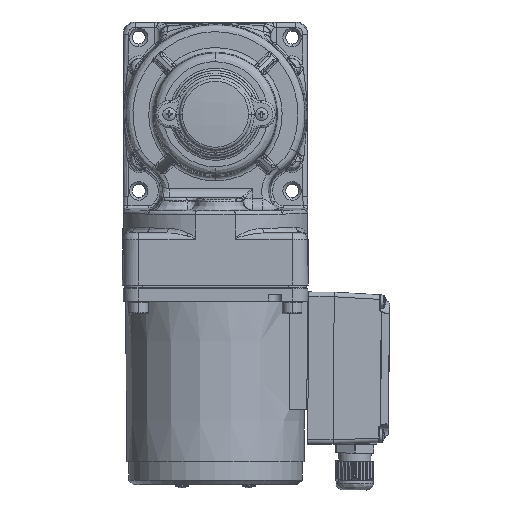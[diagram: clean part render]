
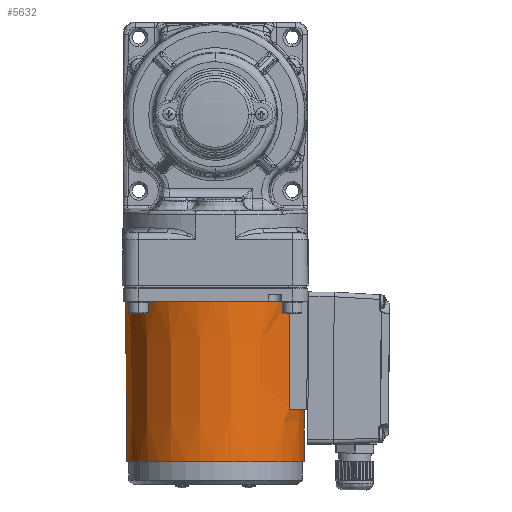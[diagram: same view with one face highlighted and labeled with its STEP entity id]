
A CAD part, left-side view. The second image highlights one B-rep face of the part: STEP entity #5632.
In plain terms, the highlighted conical face has half-angle 0.47 degrees and reference radius 38.947 mm.
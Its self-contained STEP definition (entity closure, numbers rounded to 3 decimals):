
#3020 = VERTEX_POINT ( 'NONE', #67636 ) ;
#3150 = AXIS2_PLACEMENT_3D ( 'NONE', #60137, #16635, #67307 ) ;
#4649 = AXIS2_PLACEMENT_3D ( 'NONE', #63301, #63118, #62997 ) ;
#5632 = ADVANCED_FACE ( 'NONE', ( #62599 ), #85411, .T. ) ;
#10575 =( BOUNDED_CURVE ( )  B_SPLINE_CURVE ( 3, ( #49008, #49099, #50046, #48985 ),
 .UNSPECIFIED., .F., .F. ) 
 B_SPLINE_CURVE_WITH_KNOTS ( ( 4, 4 ),
 ( 3.781, 3.785 ),
 .UNSPECIFIED. ) 
 CURVE ( )  GEOMETRIC_REPRESENTATION_ITEM ( )  RATIONAL_B_SPLINE_CURVE ( ( 1., 1., 1., 1. ) ) 
 REPRESENTATION_ITEM ( '' )  );
#13320 = CARTESIAN_POINT ( 'NONE',  ( 0., 0., -38.947 ) ) ;
#13617 = EDGE_LOOP ( 'NONE', ( #63433, #71862, #50730, #39916, #60328, #92405 ) ) ;
#14446 = EDGE_CURVE ( 'NONE', #3020, #69577, #62729, .T. ) ;
#16635 = DIRECTION ( 'NONE',  ( 0., -1., 0. ) ) ;
#17765 = DIRECTION ( 'NONE',  ( 0., -1., -0.008 ) ) ;
#20903 = EDGE_CURVE ( 'NONE', #73979, #90114, #48547, .T. ) ;
#22737 = CARTESIAN_POINT ( 'NONE',  ( 0., 69.5, -38.377 ) ) ;
#25511 = EDGE_CURVE ( 'NONE', #90913, #3020, #57550, .T. ) ;
#28183 = AXIS2_PLACEMENT_3D ( 'NONE', #58423, #58399, #58315 ) ;
#28422 = EDGE_CURVE ( 'NONE', #69577, #73979, #10575, .T. ) ;
#29137 = LINE ( 'NONE', #68391, #32015 ) ;
#32015 = VECTOR ( 'NONE', #17765, 1000. ) ;
#37004 = CARTESIAN_POINT ( 'NONE',  ( 0., 69.5, 38.377 ) ) ;
#39777 = DIRECTION ( 'NONE',  ( 0., 0., -1. ) ) ;
#39916 = ORIENTED_EDGE ( 'NONE', *, *, #28422, .T. ) ;
#40590 = CARTESIAN_POINT ( 'NONE',  ( 0., 0., 0. ) ) ;
#48547 = CIRCLE ( 'NONE', #28183, 38.947 ) ;
#48985 = CARTESIAN_POINT ( 'NONE',  ( 22., 0., 32.138 ) ) ;
#49008 = CARTESIAN_POINT ( 'NONE',  ( 21.59, 47., 31.951 ) ) ;
#49099 = CARTESIAN_POINT ( 'NONE',  ( 21.726, 31.379, 32.013 ) ) ;
#50046 = CARTESIAN_POINT ( 'NONE',  ( 21.863, 15.712, 32.076 ) ) ;
#50730 = ORIENTED_EDGE ( 'NONE', *, *, #14446, .T. ) ;
#51929 = AXIS2_PLACEMENT_3D ( 'NONE', #40590, #52243, #39777 ) ;
#52243 = DIRECTION ( 'NONE',  ( 0., -1., 0. ) ) ;
#57550 = LINE ( 'NONE', #70232, #89208 ) ;
#58315 = DIRECTION ( 'NONE',  ( 0., 0., -1. ) ) ;
#58399 = DIRECTION ( 'NONE',  ( 0., 1., 0. ) ) ;
#58423 = CARTESIAN_POINT ( 'NONE',  ( 0., 0., 0. ) ) ;
#60137 = CARTESIAN_POINT ( 'NONE',  ( 0., 69.5, 0. ) ) ;
#60328 = ORIENTED_EDGE ( 'NONE', *, *, #20903, .T. ) ;
#62599 = FACE_OUTER_BOUND ( 'NONE', #13617, .T. ) ;
#62729 = CIRCLE ( 'NONE', #4649, 38.561 ) ;
#62997 = DIRECTION ( 'NONE',  ( 0., 0., -1. ) ) ;
#63118 = DIRECTION ( 'NONE',  ( 0., 1., 0. ) ) ;
#63301 = CARTESIAN_POINT ( 'NONE',  ( 0., 47., 0. ) ) ;
#63433 = ORIENTED_EDGE ( 'NONE', *, *, #84638, .T. ) ;
#63553 = VERTEX_POINT ( 'NONE', #22737 ) ;
#67307 = DIRECTION ( 'NONE',  ( 0., 0., -1. ) ) ;
#67636 = CARTESIAN_POINT ( 'NONE',  ( 0., 47., 38.561 ) ) ;
#68391 = CARTESIAN_POINT ( 'NONE',  ( 0., 0., -38.947 ) ) ;
#69577 = VERTEX_POINT ( 'NONE', #85278 ) ;
#70232 = CARTESIAN_POINT ( 'NONE',  ( 0., 0., 38.947 ) ) ;
#70536 = DIRECTION ( 'NONE',  ( 0., -1., 0.008 ) ) ;
#71862 = ORIENTED_EDGE ( 'NONE', *, *, #25511, .T. ) ;
#72342 = CARTESIAN_POINT ( 'NONE',  ( 22., 0., 32.138 ) ) ;
#73979 = VERTEX_POINT ( 'NONE', #72342 ) ;
#81885 = EDGE_CURVE ( 'NONE', #63553, #90114, #29137, .T. ) ;
#84638 = EDGE_CURVE ( 'NONE', #63553, #90913, #89511, .T. ) ;
#85278 = CARTESIAN_POINT ( 'NONE',  ( 21.59, 47., 31.951 ) ) ;
#85411 = CONICAL_SURFACE ( 'NONE', #51929, 38.947, 0.008 ) ;
#89208 = VECTOR ( 'NONE', #70536, 1000. ) ;
#89511 = CIRCLE ( 'NONE', #3150, 38.377 ) ;
#90114 = VERTEX_POINT ( 'NONE', #13320 ) ;
#90913 = VERTEX_POINT ( 'NONE', #37004 ) ;
#92405 = ORIENTED_EDGE ( 'NONE', *, *, #81885, .F. ) ;
